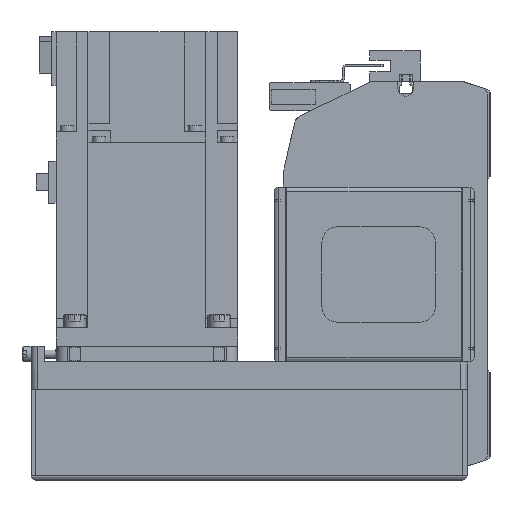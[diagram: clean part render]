
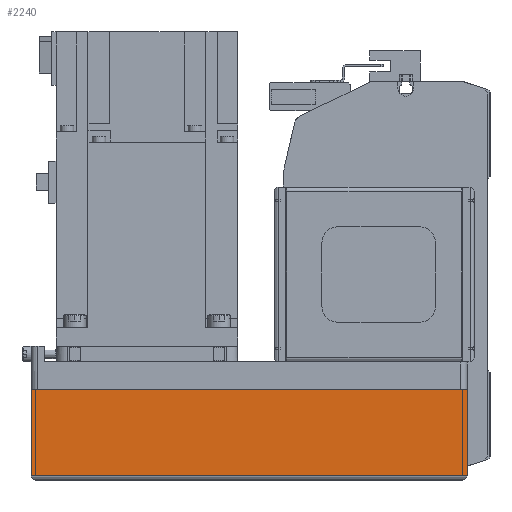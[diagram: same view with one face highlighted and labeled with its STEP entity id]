
A CAD part, left-side view. The second image highlights one B-rep face of the part: STEP entity #2240.
In plain terms, the highlighted planar face has unit normal (-1, 0, 0) as drawn and (0, -1, 0) by its records, which use the part's own axes.
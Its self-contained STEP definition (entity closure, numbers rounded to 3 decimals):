
#2240 = ADVANCED_FACE( '', ( #5100 ), #5101, .T. );
#5100 = FACE_OUTER_BOUND( '', #8656, .T. );
#5101 = PLANE( '', #8657 );
#8656 = EDGE_LOOP( '', ( #15032, #15033, #15034, #15035 ) );
#8657 = AXIS2_PLACEMENT_3D( '', #15036, #15037, #15038 );
#15032 = ORIENTED_EDGE( '', *, *, #22413, .F. );
#15033 = ORIENTED_EDGE( '', *, *, #20444, .F. );
#15034 = ORIENTED_EDGE( '', *, *, #21399, .T. );
#15035 = ORIENTED_EDGE( '', *, *, #22414, .T. );
#15036 = CARTESIAN_POINT( '', ( -192., -40., -12.1 ) );
#15037 = DIRECTION( '', ( 0., -1., 0. ) );
#15038 = DIRECTION( '', ( 0., 0., -1. ) );
#20444 = EDGE_CURVE( '', #24455, #24456, #24457, .T. );
#21399 = EDGE_CURVE( '', #24455, #26067, #26069, .T. );
#22413 = EDGE_CURVE( '', #24456, #27589, #27590, .T. );
#22414 = EDGE_CURVE( '', #26067, #27589, #27591, .T. );
#24455 = VERTEX_POINT( '', #30272 );
#24456 = VERTEX_POINT( '', #30273 );
#24457 = LINE( '', #30274, #30275 );
#26067 = VERTEX_POINT( '', #32677 );
#26069 = LINE( '', #32680, #32681 );
#27589 = VERTEX_POINT( '', #35116 );
#27590 = LINE( '', #35117, #35118 );
#27591 = LINE( '', #35119, #35120 );
#30272 = CARTESIAN_POINT( '', ( -192., -40., -12.1 ) );
#30273 = CARTESIAN_POINT( '', ( 0., -40., -12.1 ) );
#30274 = CARTESIAN_POINT( '', ( -192., -40., -12.1 ) );
#30275 = VECTOR( '', #38094, 1000. );
#32677 = CARTESIAN_POINT( '', ( -192., -40., -50. ) );
#32680 = CARTESIAN_POINT( '', ( -192., -40., -12.1 ) );
#32681 = VECTOR( '', #39364, 1000. );
#35116 = CARTESIAN_POINT( '', ( 0., -40., -50. ) );
#35117 = CARTESIAN_POINT( '', ( 0., -40., -12.1 ) );
#35118 = VECTOR( '', #40567, 1000. );
#35119 = CARTESIAN_POINT( '', ( -192., -40., -50. ) );
#35120 = VECTOR( '', #40568, 1000. );
#38094 = DIRECTION( '', ( 1., 0., 0. ) );
#39364 = DIRECTION( '', ( 0., 0., -1. ) );
#40567 = DIRECTION( '', ( 0., 0., -1. ) );
#40568 = DIRECTION( '', ( 1., 0., 0. ) );
